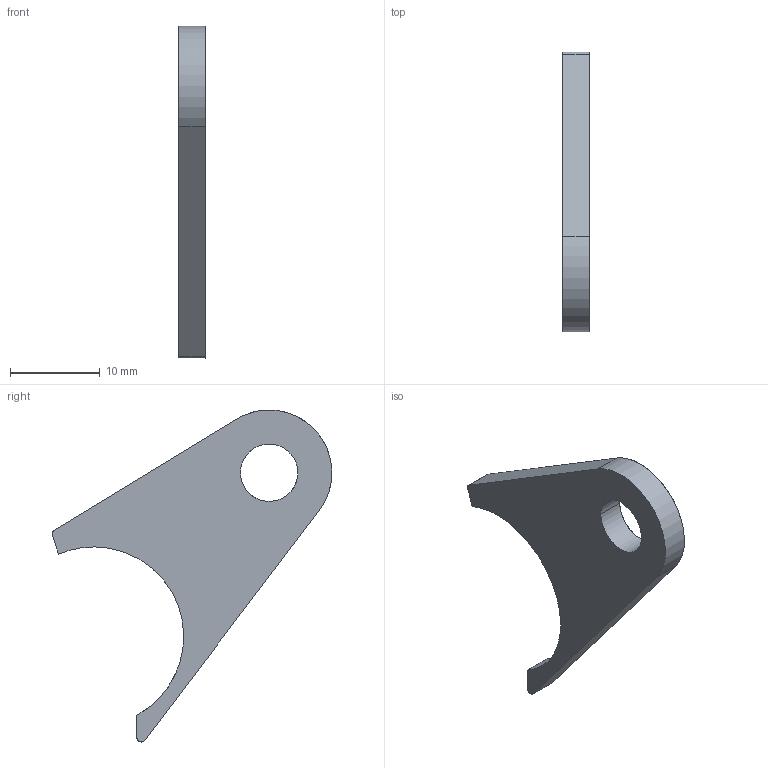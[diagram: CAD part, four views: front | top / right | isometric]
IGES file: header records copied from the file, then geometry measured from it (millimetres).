
Start section: START RECORD GO HERE.
Global section: file name: 20M_EN_06128 (Chape PE Droit Bas).igs; native system: IBM CATIA IGES - CATIA Version 5 Release 19 ; preprocessor: CATIA Version 5 Release 19 ; author: mik75; organization: LAPTOP-SUH344G9; date: 20200115.125218; units: millimetre
Bounding box: 3 x 31.22 x 37.04 mm (x, y, z)
Surface area: 1202.4 mm2 (no closed solid volume)
Topology: 0 solids, 0 shells, 14 faces, 74 edges, 74 vertices
Faces by surface type: revolution 8, plane 6
